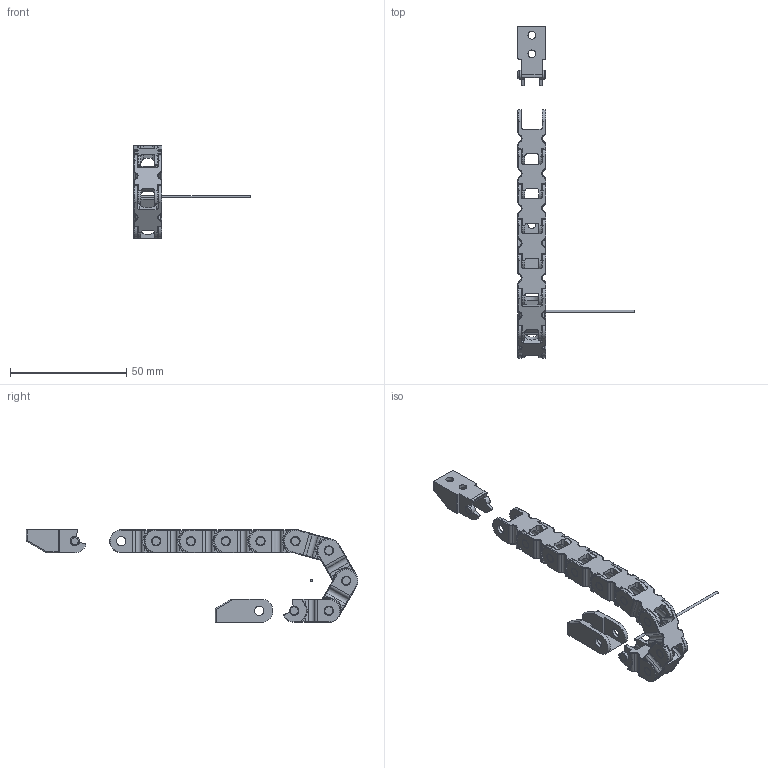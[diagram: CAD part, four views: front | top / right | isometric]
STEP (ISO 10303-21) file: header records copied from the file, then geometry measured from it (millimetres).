
FILE_DESCRIPTION((''),'2;1');
FILE_NAME('C:\Uebbing\PARAMETERKETTEN\KOLIBRI\Kol_10_012_4\KOLIBRI 10_012_4_R15.stp','2012-03-02T11:45:24',('Uebbing'),(''),'Autodesk Inventor 10','Autodesk Inventor 10','');
FILE_SCHEMA(('AUTOMOTIVE_DESIGN { 1 0 10303 214 1 1 1 1 }'));
Length unit declared in the file: millimetre
Products named in the file (5): KOLIBRI 10_012_4; Achse; Kol_10_012_4 Lasche; Kol_10_012_4_Anschluss_Bohrung 1576; Kol_10_012_4_Anschluss_Zapfen 1814
Assembly tree (12 placements, depth 2):
  KOLIBRI 10_012_4
    Achse
    Kol_10_012_4 Lasche  x9
    Kol_10_012_4_Anschluss_Bohrung 1576
    Kol_10_012_4_Anschluss_Zapfen 1814
Bounding box: 50 x 142.95 x 40 mm (x, y, z)
Volume: 10321.2 mm3; surface area: 14822.3 mm2
Topology: 12 solids, 12 shells, 1192 faces, 3063 edges, 1823 vertices
Faces by surface type: cylinder 478, plane 352, torus 180, bspline 144, cone 38
Full cylindrical faces by diameter (mm): 1 x1, 3.35 x4, 4 x40
Entity records: 7222 total; most frequent: CARTESIAN_POINT 2409, DIRECTION 1032, ORIENTED_EDGE 932, EDGE_CURVE 466, AXIS2_PLACEMENT_3D 401, VERTEX_POINT 299, VECTOR 230, LINE 230
